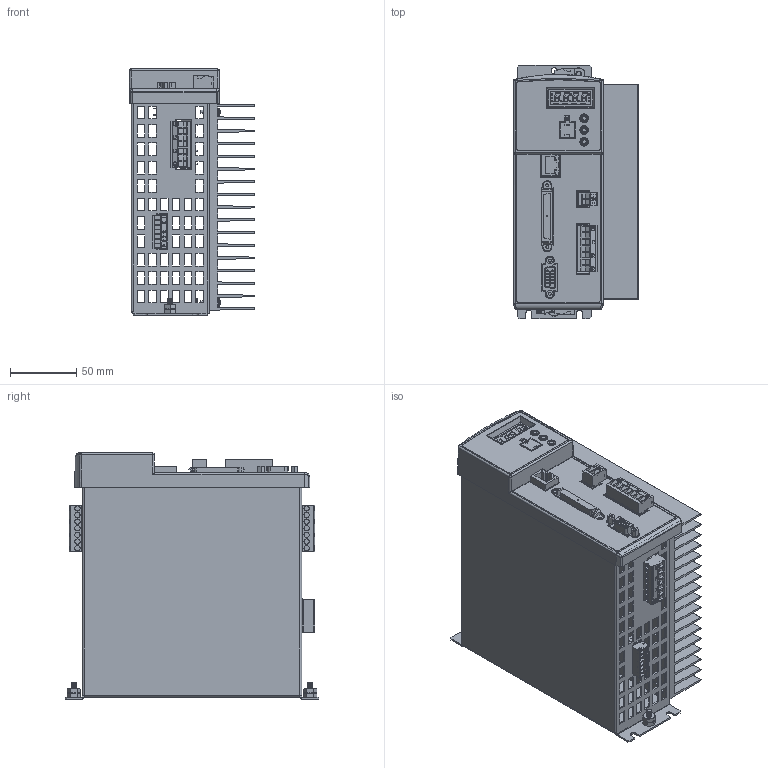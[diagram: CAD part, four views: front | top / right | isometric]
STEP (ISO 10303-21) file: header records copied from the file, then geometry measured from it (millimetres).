
FILE_DESCRIPTION (( 'STEP AP203' ), '1' );
FILE_NAME ('2097-V33PR5-new.STEP', '2009-12-16T19:31:29', ( 'IT Department' ), ( 'ACTech Lenze' ), 'SwSTEP 2.0', 'SolidWorks 2009', '' );
FILE_SCHEMA (( 'CONFIG_CONTROL_DESIGN' ));
Length unit declared in the file: inch
Products named in the file (31): 603-120; 603-119-12; 402-083_7 PIN - 5 ACTIVE5; 402-079_7 PIN-4 ACTIVE6; 402-085_2 PIN - 2 ACTIVE5; 9370_-002 (240v 8a 1-3ph)1; FHS-832-8_PEM FH-832-8 X--S8; 607-355_Hooks5; 607-355 Assy_Hooks5; 600-084_Hooks8; 204-26; 2097-V33PR5-new; 9360_Display Board Assy8; 402-125; Nut 8-32_813-537; 402-138; c-1734086; 401-231; 401-205; 9354_Control Board Assy8; 402-080_7 POS IN5; 600-028_New8; 401-143; 207-563; 605-357_28; 605-357 Assy8; 600-029_Single8; NEW 218-001_Assembled8; 402-086_2 POS5; TAPTITE_813-166; cb-sw_702-192
Assembly tree (43 placements, depth 4):
  2097-V33PR5-new
    NEW 218-001_Assembled8
      600-028_New8
      605-357 Assy8
        207-563
        605-357_28
        401-143
      600-029_Single8
    9354_Control Board Assy8
      401-231
      c-1734086
      401-205
      402-138
    402-086_2 POS5
    Nut 8-32_813-537  x4
    TAPTITE_813-166  x5
    603-119-12
      603-120
    9370_-002 (240v 8a 1-3ph)1
      402-079_7 PIN-4 ACTIVE6  x2
      402-085_2 PIN - 2 ACTIVE5
      402-083_7 PIN - 5 ACTIVE5
    9360_Display Board Assy8
      cb-sw_702-192  x3
      204-26
    402-125
    607-355 Assy_Hooks5
      FHS-832-8_PEM FH-832-8 X--S8  x2
      607-355_Hooks5
    402-080_7 POS IN5  x3
    600-084_Hooks8
Bounding box: 94.44 x 190.5 x 185.12 mm (x, y, z)
Volume: 426036 mm3; surface area: 406788.8 mm2
Topology: 35 solids, 36 shells, 4576 faces, 11898 edges, 7731 vertices
Faces by surface type: plane 3179, cylinder 928, cone 303, bspline 122, torus 35, sphere 9
Entity records: 125416 total; most frequent: CARTESIAN_POINT 30697, ORIENTED_EDGE 19286, DIRECTION 17708, EDGE_CURVE 9644, VECTOR 7318, LINE 7318, VERTEX_POINT 6294, AXIS2_PLACEMENT_3D 5195
